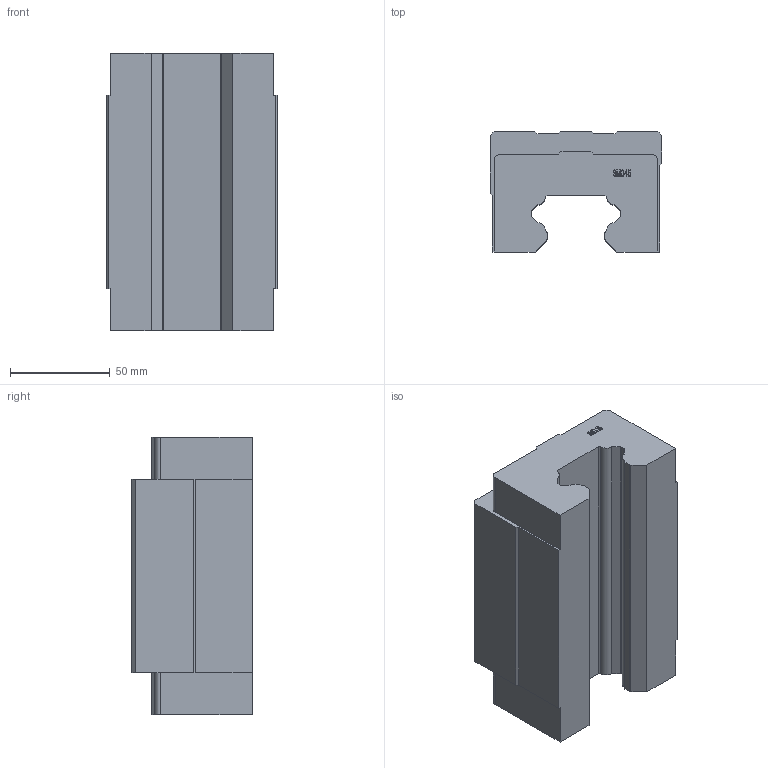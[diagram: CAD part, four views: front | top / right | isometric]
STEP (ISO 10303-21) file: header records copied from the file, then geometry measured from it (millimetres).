
FILE_DESCRIPTION (( 'STEP AP203' ), '1' );
FILE_NAME ('SMH45B.stp', '2019-09-25T03:44:30', ( 'pgos' ), ( '' ), 'SwSTEP 2.0', 'SolidWorks 2014', '' );
FILE_SCHEMA (( 'CONFIG_CONTROL_DESIGN' ));
Length unit declared in the file: millimetre
Products named in the file (1): SMH45B
Bounding box: 86 x 60.5 x 139.4 mm (x, y, z)
Volume: 519772.4 mm3; surface area: 58773.4 mm2
Topology: 1 solids, 1 shells, 221 faces, 627 edges, 418 vertices
Faces by surface type: plane 145, bspline 51, cylinder 25
Entity records: 9170 total; most frequent: CARTESIAN_POINT 3646, ORIENTED_EDGE 1254, DIRECTION 917, EDGE_CURVE 627, LINE 475, VECTOR 475, VERTEX_POINT 418, EDGE_LOOP 231
